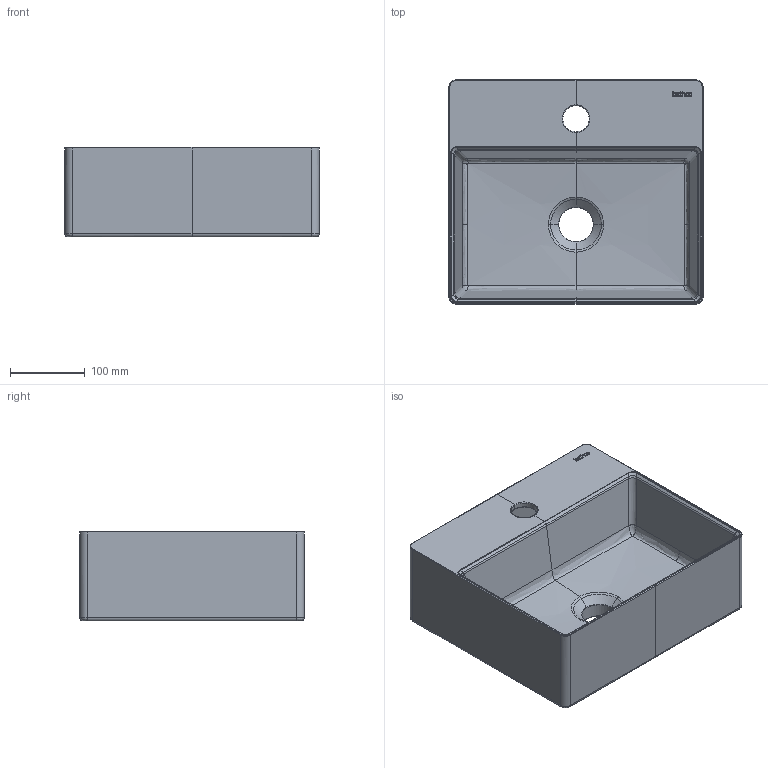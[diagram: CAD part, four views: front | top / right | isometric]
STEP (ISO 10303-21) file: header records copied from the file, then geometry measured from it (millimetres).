
FILE_DESCRIPTION(/* description */ (''),/* implementation_level */ '2;1');
FILE_NAME(/* name */ '4913_NEW BERGAMO',/* time_stamp */ '2022-10-25T09:02:55+02:00',/* author */ (''),/* organization */ (''),/* preprocessor_version */ 'ST-DEVELOPER v16.5',/* originating_system */ '',/* authorisation */ '');
FILE_SCHEMA (('CONFIG_CONTROL_DESIGN'));
Length unit declared in the file: millimetre
Products named in the file (1): Document
Bounding box: 340 x 300 x 120.2 mm (x, y, z)
Volume: 2574019.8 mm3; surface area: 515481.2 mm2
Topology: 7 solids, 7 shells, 250 faces, 576 edges, 332 vertices
Faces by surface type: bspline 146, plane 65, cylinder 39
Full cylindrical faces by diameter (mm): 62 x1
Entity records: 17053 total; most frequent: CARTESIAN_POINT 13375, ORIENTED_EDGE 1144, EDGE_CURVE 572, B_SPLINE_CURVE_WITH_KNOTS 370, VERTEX_POINT 332, EDGE_LOOP 256, ADVANCED_FACE 250, FACE_OUTER_BOUND 250
